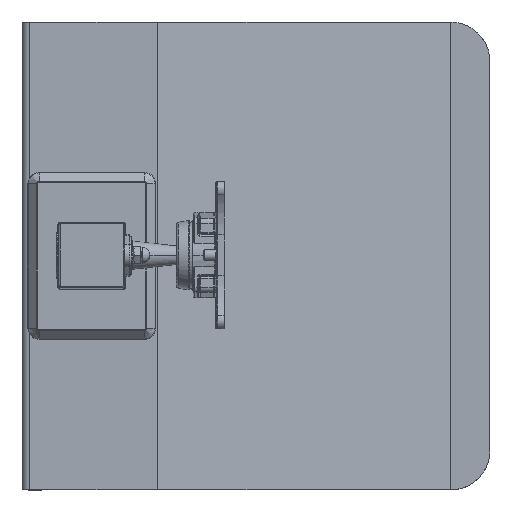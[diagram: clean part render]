
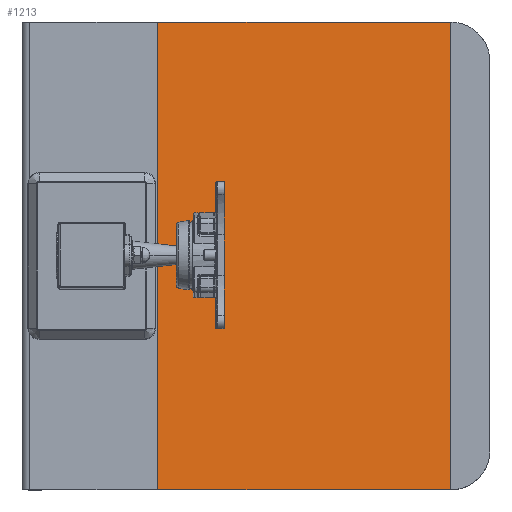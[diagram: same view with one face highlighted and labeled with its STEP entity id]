
A CAD part, top view. The second image highlights one B-rep face of the part: STEP entity #1213.
In plain terms, the highlighted planar face has unit normal (0.133, 0, 0.991) as drawn and (0.133, 0.991, 0) by its records, which use the part's own axes.
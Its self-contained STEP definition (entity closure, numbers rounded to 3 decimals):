
#1213=ADVANCED_FACE('',(#2329),#18407,.T.);
#2329=FACE_OUTER_BOUND('',#3515,.T.);
#3515=EDGE_LOOP('',(#8409,#8410,#8411,#8412));
#8409=ORIENTED_EDGE('',*,*,#11996,.T.);
#8410=ORIENTED_EDGE('',*,*,#11999,.F.);
#8411=ORIENTED_EDGE('',*,*,#11998,.T.);
#8412=ORIENTED_EDGE('',*,*,#11997,.T.);
#11996=EDGE_CURVE('',#16990,#17062,#15250,.T.);
#11997=EDGE_CURVE('',#16989,#16990,#15251,.T.);
#11998=EDGE_CURVE('',#17063,#16989,#15252,.T.);
#11999=EDGE_CURVE('',#17063,#17062,#15253,.T.);
#15250=B_SPLINE_CURVE_WITH_KNOTS('',1,(#65369,#65370),.UNSPECIFIED.,.F.,
 .F.,(2,2),(0.,356.),.UNSPECIFIED.);
#15251=B_SPLINE_CURVE_WITH_KNOTS('',1,(#65371,#65372),.UNSPECIFIED.,.F.,
 .F.,(2,2),(0.,224.741),.UNSPECIFIED.);
#15252=B_SPLINE_CURVE_WITH_KNOTS('',1,(#65373,#65374),.UNSPECIFIED.,.F.,
 .F.,(2,2),(-356.,0.),.UNSPECIFIED.);
#15253=B_SPLINE_CURVE_WITH_KNOTS('',1,(#65375,#65376),.UNSPECIFIED.,.F.,
 .F.,(2,2),(-224.741,0.),.UNSPECIFIED.);
#16989=VERTEX_POINT('',#64939);
#16990=VERTEX_POINT('',#64940);
#17062=VERTEX_POINT('',#65012);
#17063=VERTEX_POINT('',#65013);
#18407=PLANE('',#20098);
#20098=AXIS2_PLACEMENT_3D('',#64609,#20514,$);
#20514=DIRECTION('',(0.133,0.991,0.));
#64609=CARTESIAN_POINT('',(170.948,-0.087,-214.205));
#64939=CARTESIAN_POINT('',(148.,3.,-178.));
#64940=CARTESIAN_POINT('',(-74.735,32.964,-178.));
#65012=CARTESIAN_POINT('',(-74.735,32.964,178.));
#65013=CARTESIAN_POINT('',(148.,3.,178.));
#65369=CARTESIAN_POINT('',(-74.735,32.964,-178.));
#65370=CARTESIAN_POINT('',(-74.735,32.964,178.));
#65371=CARTESIAN_POINT('',(148.,3.,-178.));
#65372=CARTESIAN_POINT('',(-74.735,32.964,-178.));
#65373=CARTESIAN_POINT('',(148.,3.,178.));
#65374=CARTESIAN_POINT('',(148.,3.,-178.));
#65375=CARTESIAN_POINT('',(148.,3.,178.));
#65376=CARTESIAN_POINT('',(-74.735,32.964,178.));
